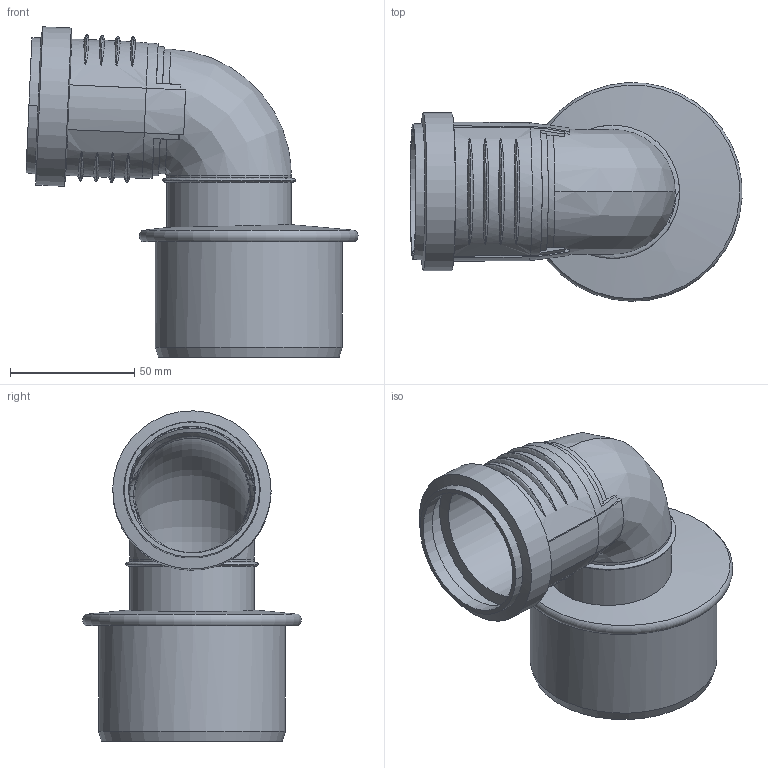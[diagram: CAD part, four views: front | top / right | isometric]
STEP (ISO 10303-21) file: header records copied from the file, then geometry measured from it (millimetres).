
FILE_DESCRIPTION(/* description */ (''),/* implementation_level */ '2;1');
FILE_NAME(/* name */ 'C:\Planerdaten\Export PLA\390.325.14.1\stp\390325.stp',/* time_stamp */ '2022-08-04T07:37:57+02:00',/* author */ ('JANAN'),/* organization */ (''),/* preprocessor_version */ 'ST-DEVELOPER v18.1',/* originating_system */ 'Autodesk Inventor 2021',/* authorisation */ '');
FILE_SCHEMA (('AUTOMOTIVE_DESIGN { 1 0 10303 214 3 1 1 }'));
Length unit declared in the file: millimetre
Products named in the file (1): tmpEE17.tmp
Bounding box: 133.53 x 87.93 x 132.85 mm (x, y, z)
Volume: 95421.3 mm3; surface area: 83355.5 mm2
Topology: 2 solids, 2 shells, 151 faces, 430 edges, 285 vertices
Faces by surface type: bspline 98, plane 16, cone 13, cylinder 12, torus 6, sphere 6
Full cylindrical faces by diameter (mm): 50.15 x2, 50.2 x1, 50.7 x1, 51 x1, 60.1 x1, 63.7 x1, 75.2 x1
Entity records: 15507 total; most frequent: CARTESIAN_POINT 11891, ORIENTED_EDGE 858, DIRECTION 543, EDGE_CURVE 429, VERTEX_POINT 289, AXIS2_PLACEMENT_3D 253, B_SPLINE_CURVE_WITH_KNOTS 178, CIRCLE 175
